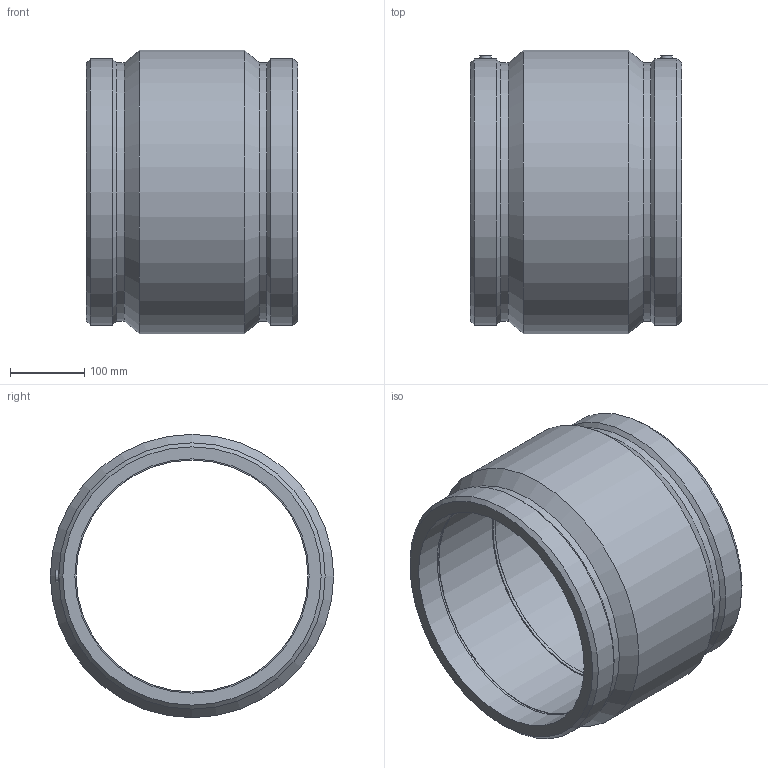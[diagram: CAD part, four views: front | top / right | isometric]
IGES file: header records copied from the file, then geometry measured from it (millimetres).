
Global section: file name: 450104315.ipt; native system: Autodesk Inventor 2015; preprocessor: unknown; author: KIM; date: 20171106.093359; units: millimetre
Bounding box: 284 x 381 x 381 mm (x, y, z)
Volume: 8316811.5 mm3; surface area: 674222.8 mm2
Topology: 1 solids, 1 shells, 36 faces, 80 edges, 54 vertices
Faces by surface type: plane 12, revolution 9, cone 8, cylinder 7
Full cylindrical faces by diameter (mm): 4 x2, 347.396 x2, 358.14 x2, 381 x1
